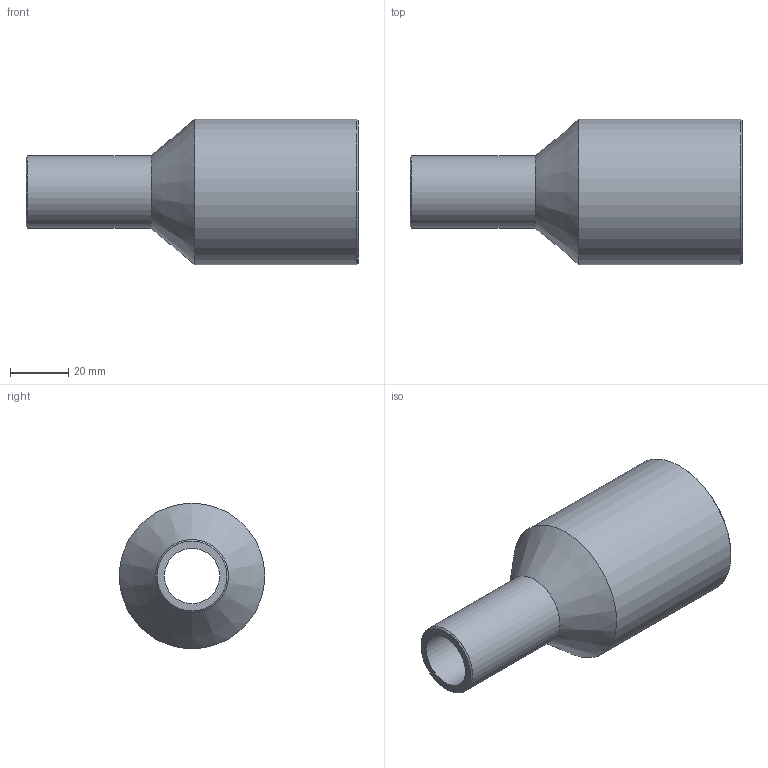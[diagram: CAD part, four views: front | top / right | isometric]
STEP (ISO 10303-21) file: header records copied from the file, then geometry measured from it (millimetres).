
FILE_DESCRIPTION(/* description */ ('Unknown'),/* implementation_level */ '2;1');
FILE_NAME(/* name */ 'RP050025C',/* time_stamp */ '2021-09-17T14:55:16+02:00',/* author */ ('Unknown'),/* organization */ ('Unknown'),/* preprocessor_version */ 'ST-DEVELOPER v16.7',/* originating_system */ 'Solid Edge',/* authorisation */ 'Unknown');
FILE_SCHEMA (('AUTOMOTIVE_DESIGN {1 0 10303 214 3 1 1}'));
Length unit declared in the file: millimetre
Products named in the file (1): RP050025C
Bounding box: 114 x 50 x 50 mm (x, y, z)
Volume: 55904.9 mm3; surface area: 26480.1 mm2
Topology: 1 solids, 1 shells, 10 faces, 19 edges, 11 vertices
Faces by surface type: cylinder 4, cone 4, plane 2
Full cylindrical faces by diameter (mm): 19 x1, 25 x1, 40.8 x1, 50 x1
Entity records: 238 total; most frequent: DIRECTION 42, CARTESIAN_POINT 31, AXIS2_PLACEMENT_3D 21, ORIENTED_EDGE 20, EDGE_LOOP 20, FACE_BOUND 20, EDGE_CURVE 10, VERTEX_POINT 10
